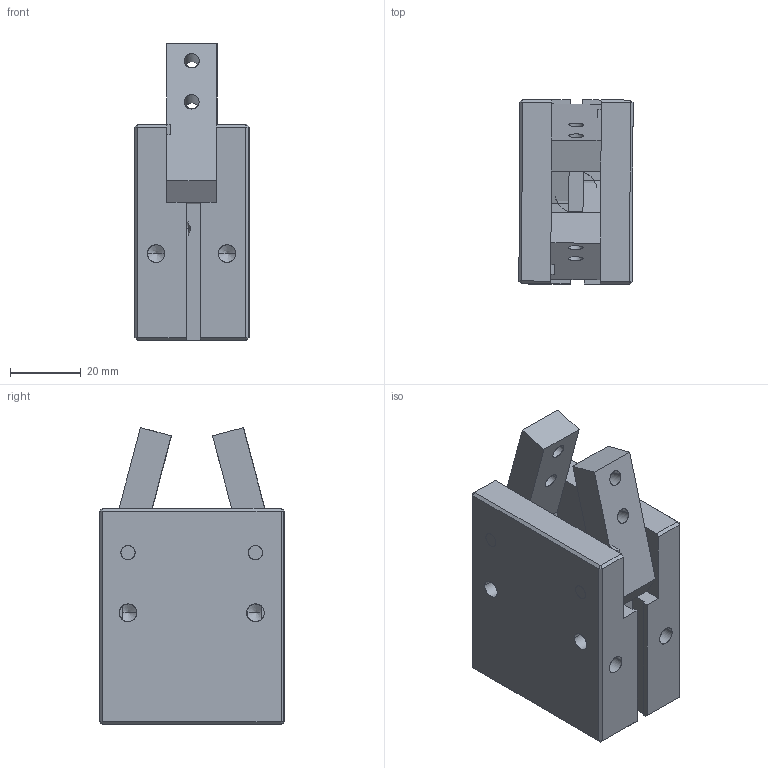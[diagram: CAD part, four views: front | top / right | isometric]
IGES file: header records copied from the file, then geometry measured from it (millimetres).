
Start section: SolidWorks IGES file using analytic representation for surfaces
Global section: file name: C:\Documents and Settings\SGA\Bureau\GDS.25\GDS.25-CLOSE.IGS; native system: SolidWorks 2010; preprocessor: SolidWorks 2010; author: SGA; date: 111020.135057; units: millimetre
Bounding box: 32.26 x 52.16 x 83.79 mm (x, y, z)
Surface area: 27971 mm2 (no closed solid volume)
Topology: 0 solids, 0 shells, 587 faces, 6560 edges, 6544 vertices
Faces by surface type: bspline 523, revolution 64
